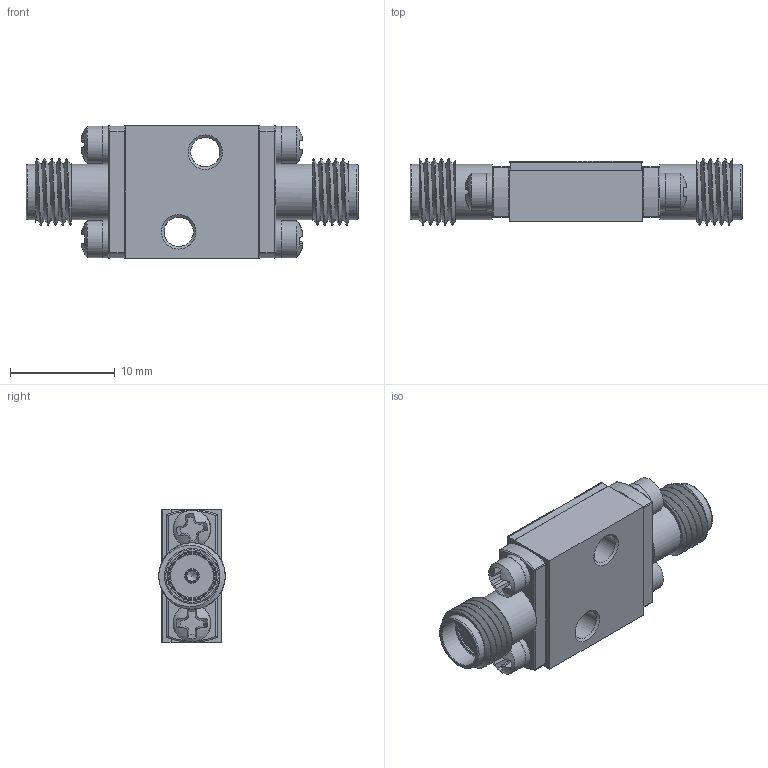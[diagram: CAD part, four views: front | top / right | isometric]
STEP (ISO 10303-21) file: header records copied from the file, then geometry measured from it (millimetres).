
FILE_DESCRIPTION (( 'STEP AP214' ), '1' );
FILE_NAME ('LM-0518-10-1W-SHS-1-F.STEP', '2026-04-01T15:12:09', ( '' ), ( '' ), 'SwSTEP 2.0', 'SolidWorks 2025', '' );
FILE_SCHEMA (( 'AUTOMOTIVE_DESIGN' ));
Length unit declared in the file: inch
Products named in the file (1): LM-0518-10-1W-SHS-1-F
Bounding box: 31.75 x 6.35 x 12.7 mm (x, y, z)
Volume: 1378.4 mm3; surface area: 2803.2 mm2
Topology: 21 solids, 21 shells, 622 faces, 2012 edges, 1624 vertices
Faces by surface type: plane 384, cylinder 102, torus 60, cone 50, sphere 22, bspline 4
Full cylindrical faces by diameter (mm): 0.381 x4, 0.508 x4, 0.762 x2, 0.889 x2, 1.016 x2, 1.245 x2, 1.27 x2, 1.524 x2, 1.778 x6, 2.184 x8, 2.235 x2, 2.489 x2, 2.565 x2, 2.591 x4, 2.794 x2, 2.845 x2, 3.302 x2, 3.556 x6, 4.191 x4, 4.597 x2, 5.283 x4
Entity records: 33625 total; most frequent: CARTESIAN_POINT 9074, ORIENTED_EDGE 3624, DIRECTION 3077, EDGE_CURVE 1812, VERTEX_POINT 1594, AXIS2_PLACEMENT_3D 1102, EDGE_LOOP 1010, LINE 873
